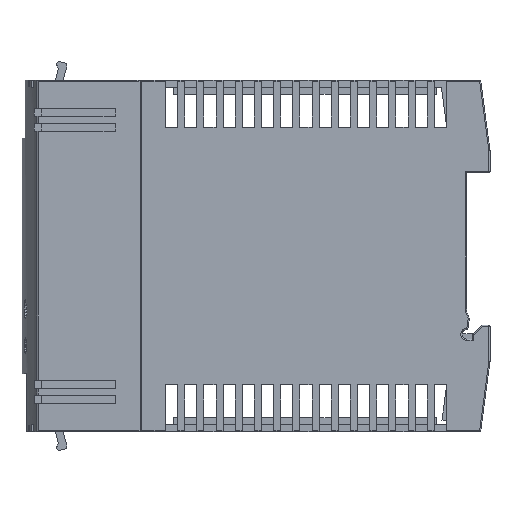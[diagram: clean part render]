
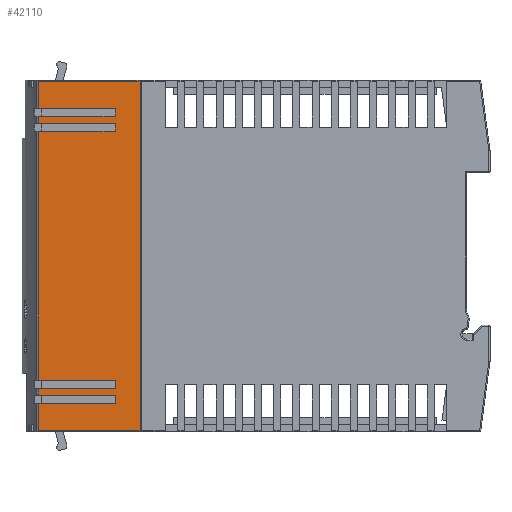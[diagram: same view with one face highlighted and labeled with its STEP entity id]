
A CAD part, front view. The second image highlights one B-rep face of the part: STEP entity #42110.
In plain terms, the highlighted planar face has unit normal (-0.008, -1, 0).
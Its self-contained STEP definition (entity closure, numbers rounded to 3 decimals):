
#6078=ORIENTED_EDGE('',*,*,#12685,.F.);
#6079=ORIENTED_EDGE('',*,*,#12926,.T.);
#6080=ORIENTED_EDGE('',*,*,#12927,.T.);
#6081=ORIENTED_EDGE('',*,*,#12928,.F.);
#6082=ORIENTED_EDGE('',*,*,#12929,.F.);
#6083=ORIENTED_EDGE('',*,*,#12930,.T.);
#6084=ORIENTED_EDGE('',*,*,#12931,.T.);
#6085=ORIENTED_EDGE('',*,*,#12932,.F.);
#6086=ORIENTED_EDGE('',*,*,#12933,.F.);
#6087=ORIENTED_EDGE('',*,*,#12934,.T.);
#6088=ORIENTED_EDGE('',*,*,#12935,.T.);
#6089=ORIENTED_EDGE('',*,*,#12936,.F.);
#6090=ORIENTED_EDGE('',*,*,#12937,.F.);
#6091=ORIENTED_EDGE('',*,*,#12938,.T.);
#6092=ORIENTED_EDGE('',*,*,#12939,.T.);
#6093=ORIENTED_EDGE('',*,*,#12940,.F.);
#6094=ORIENTED_EDGE('',*,*,#12941,.F.);
#6095=ORIENTED_EDGE('',*,*,#12942,.T.);
#6096=ORIENTED_EDGE('',*,*,#12943,.T.);
#6097=ORIENTED_EDGE('',*,*,#12944,.T.);
#12685=EDGE_CURVE('',#16433,#16434,#20178,.T.);
#12926=EDGE_CURVE('',#16433,#16658,#20281,.F.);
#12927=EDGE_CURVE('',#16658,#16659,#20282,.T.);
#12928=EDGE_CURVE('',#16660,#16659,#20283,.T.);
#12929=EDGE_CURVE('',#16661,#16660,#20284,.T.);
#12930=EDGE_CURVE('',#16661,#16662,#20285,.T.);
#12931=EDGE_CURVE('',#16662,#16663,#20286,.T.);
#12932=EDGE_CURVE('',#16664,#16663,#20287,.T.);
#12933=EDGE_CURVE('',#16665,#16664,#20288,.T.);
#12934=EDGE_CURVE('',#16665,#16666,#20289,.T.);
#12935=EDGE_CURVE('',#16666,#16667,#20290,.T.);
#12936=EDGE_CURVE('',#16668,#16667,#20291,.T.);
#12937=EDGE_CURVE('',#16669,#16668,#20292,.T.);
#12938=EDGE_CURVE('',#16669,#16670,#20293,.T.);
#12939=EDGE_CURVE('',#16670,#16671,#20294,.T.);
#12940=EDGE_CURVE('',#16672,#16671,#20295,.T.);
#12941=EDGE_CURVE('',#16673,#16672,#20296,.T.);
#12942=EDGE_CURVE('',#16673,#16674,#20297,.T.);
#12943=EDGE_CURVE('',#16674,#16675,#20298,.T.);
#12944=EDGE_CURVE('',#16675,#16434,#20299,.T.);
#16433=VERTEX_POINT('',#58042);
#16434=VERTEX_POINT('',#58044);
#16658=VERTEX_POINT('',#58531);
#16659=VERTEX_POINT('',#58533);
#16660=VERTEX_POINT('',#58535);
#16661=VERTEX_POINT('',#58537);
#16662=VERTEX_POINT('',#58539);
#16663=VERTEX_POINT('',#58541);
#16664=VERTEX_POINT('',#58543);
#16665=VERTEX_POINT('',#58545);
#16666=VERTEX_POINT('',#58547);
#16667=VERTEX_POINT('',#58549);
#16668=VERTEX_POINT('',#58551);
#16669=VERTEX_POINT('',#58553);
#16670=VERTEX_POINT('',#58555);
#16671=VERTEX_POINT('',#58557);
#16672=VERTEX_POINT('',#58559);
#16673=VERTEX_POINT('',#58561);
#16674=VERTEX_POINT('',#58563);
#16675=VERTEX_POINT('',#58565);
#20178=LINE('',#58043,#24370);
#20281=LINE('',#58530,#24473);
#20282=LINE('',#58532,#24474);
#20283=LINE('',#58534,#24475);
#20284=LINE('',#58536,#24476);
#20285=LINE('',#58538,#24477);
#20286=LINE('',#58540,#24478);
#20287=LINE('',#58542,#24479);
#20288=LINE('',#58544,#24480);
#20289=LINE('',#58546,#24481);
#20290=LINE('',#58548,#24482);
#20291=LINE('',#58550,#24483);
#20292=LINE('',#58552,#24484);
#20293=LINE('',#58554,#24485);
#20294=LINE('',#58556,#24486);
#20295=LINE('',#58558,#24487);
#20296=LINE('',#58560,#24488);
#20297=LINE('',#58562,#24489);
#20298=LINE('',#58564,#24490);
#20299=LINE('',#58566,#24491);
#24370=VECTOR('',#49168,1000.);
#24473=VECTOR('',#49563,1000.);
#24474=VECTOR('',#49564,1000.);
#24475=VECTOR('',#49565,1000.);
#24476=VECTOR('',#49566,1000.);
#24477=VECTOR('',#49567,1000.);
#24478=VECTOR('',#49568,1000.);
#24479=VECTOR('',#49569,1000.);
#24480=VECTOR('',#49570,1000.);
#24481=VECTOR('',#49571,1000.);
#24482=VECTOR('',#49572,1000.);
#24483=VECTOR('',#49573,1000.);
#24484=VECTOR('',#49574,1000.);
#24485=VECTOR('',#49575,1000.);
#24486=VECTOR('',#49576,1000.);
#24487=VECTOR('',#49577,1000.);
#24488=VECTOR('',#49578,1000.);
#24489=VECTOR('',#49579,1000.);
#24490=VECTOR('',#49580,1000.);
#24491=VECTOR('',#49581,1000.);
#27009=EDGE_LOOP('',(#6078,#6079,#6080,#6081,#6082,#6083,#6084,#6085,#6086,
#6087,#6088,#6089,#6090,#6091,#6092,#6093,#6094,#6095,#6096,#6097));
#28645=FACE_BOUND('',#27009,.T.);
#30091=PLANE('',#43984);
#42110=ADVANCED_FACE('',(#28645),#30091,.F.);
#43984=AXIS2_PLACEMENT_3D('',#58529,#49561,#49562);
#49168=DIRECTION('',(0.,0.,-1.));
#49561=DIRECTION('',(0.008,1.,0.));
#49562=DIRECTION('',(1.,-0.008,0.));
#49563=DIRECTION('',(1.,-0.008,0.));
#49564=DIRECTION('',(0.,0.,-1.));
#49565=DIRECTION('',(-1.,0.008,0.));
#49566=DIRECTION('',(0.,0.,1.));
#49567=DIRECTION('',(-1.,0.008,0.));
#49568=DIRECTION('',(0.,0.,-1.));
#49569=DIRECTION('',(-1.,0.008,0.));
#49570=DIRECTION('',(0.,0.,1.));
#49571=DIRECTION('',(-1.,0.008,0.));
#49572=DIRECTION('',(0.,0.,-1.));
#49573=DIRECTION('',(-1.,0.008,0.));
#49574=DIRECTION('',(0.,0.,1.));
#49575=DIRECTION('',(-1.,0.008,0.));
#49576=DIRECTION('',(0.,0.,-1.));
#49577=DIRECTION('',(-1.,0.008,0.));
#49578=DIRECTION('',(0.,0.,1.));
#49579=DIRECTION('',(-1.,0.008,0.));
#49580=DIRECTION('',(0.,0.,-1.));
#49581=DIRECTION('',(1.,-0.008,0.));
#58042=CARTESIAN_POINT('',(-37.523,-22.451,37.296));
#58043=CARTESIAN_POINT('',(-37.523,-22.451,37.496));
#58044=CARTESIAN_POINT('',(-37.523,-22.451,-37.304));
#58529=CARTESIAN_POINT('',(-37.523,-22.451,37.496));
#58530=CARTESIAN_POINT('',(-59.261,-22.282,37.296));
#58531=CARTESIAN_POINT('',(-59.261,-22.282,37.296));
#58532=CARTESIAN_POINT('',(-59.261,-22.282,37.496));
#58533=CARTESIAN_POINT('',(-59.261,-22.282,31.5));
#58534=CARTESIAN_POINT('',(-37.523,-22.451,31.5));
#58535=CARTESIAN_POINT('',(-42.831,-22.41,31.5));
#58536=CARTESIAN_POINT('',(-42.831,-22.41,37.496));
#58537=CARTESIAN_POINT('',(-42.831,-22.41,29.815));
#58538=CARTESIAN_POINT('',(-37.523,-22.451,29.815));
#58539=CARTESIAN_POINT('',(-59.261,-22.282,29.815));
#58540=CARTESIAN_POINT('',(-59.261,-22.282,37.496));
#58541=CARTESIAN_POINT('',(-59.261,-22.282,28.299));
#58542=CARTESIAN_POINT('',(-37.523,-22.451,28.299));
#58543=CARTESIAN_POINT('',(-42.831,-22.41,28.299));
#58544=CARTESIAN_POINT('',(-42.831,-22.41,37.496));
#58545=CARTESIAN_POINT('',(-42.831,-22.41,26.614));
#58546=CARTESIAN_POINT('',(-37.523,-22.451,26.614));
#58547=CARTESIAN_POINT('',(-59.261,-22.282,26.614));
#58548=CARTESIAN_POINT('',(-59.261,-22.282,37.496));
#58549=CARTESIAN_POINT('',(-59.261,-22.282,-26.539));
#58550=CARTESIAN_POINT('',(-37.523,-22.451,-26.539));
#58551=CARTESIAN_POINT('',(-42.831,-22.41,-26.539));
#58552=CARTESIAN_POINT('',(-42.831,-22.41,37.496));
#58553=CARTESIAN_POINT('',(-42.831,-22.41,-28.308));
#58554=CARTESIAN_POINT('',(-37.523,-22.451,-28.308));
#58555=CARTESIAN_POINT('',(-59.261,-22.282,-28.308));
#58556=CARTESIAN_POINT('',(-59.261,-22.282,37.496));
#58557=CARTESIAN_POINT('',(-59.261,-22.282,-29.74));
#58558=CARTESIAN_POINT('',(-37.523,-22.451,-29.74));
#58559=CARTESIAN_POINT('',(-42.831,-22.41,-29.74));
#58560=CARTESIAN_POINT('',(-42.831,-22.41,37.496));
#58561=CARTESIAN_POINT('',(-42.831,-22.41,-31.509));
#58562=CARTESIAN_POINT('',(-37.523,-22.451,-31.509));
#58563=CARTESIAN_POINT('',(-59.261,-22.282,-31.509));
#58564=CARTESIAN_POINT('',(-59.261,-22.282,37.496));
#58565=CARTESIAN_POINT('',(-59.261,-22.282,-37.304));
#58566=CARTESIAN_POINT('',(-37.523,-22.451,-37.304));
